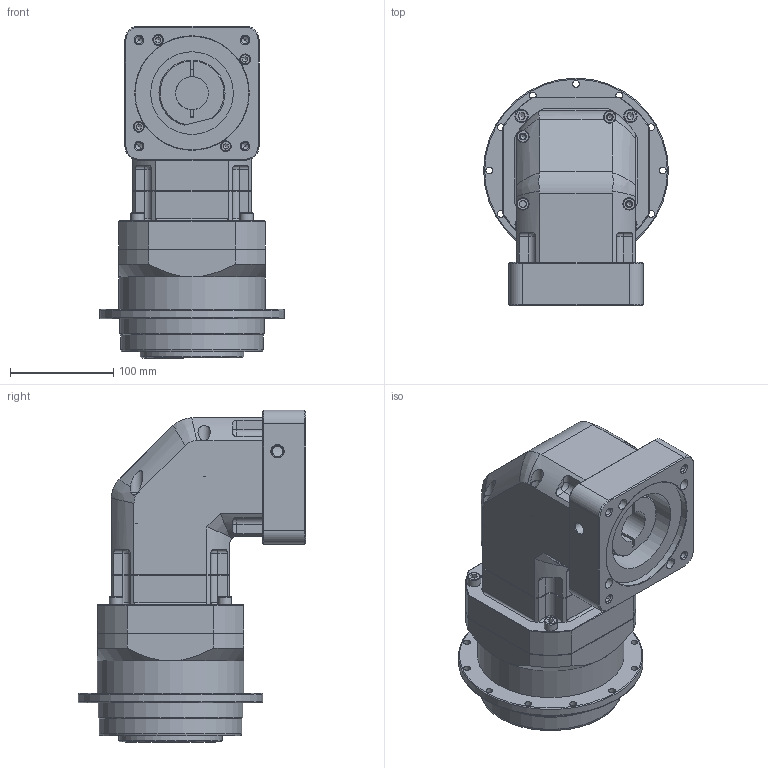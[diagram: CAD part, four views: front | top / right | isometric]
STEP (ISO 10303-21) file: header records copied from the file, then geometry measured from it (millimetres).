
FILE_DESCRIPTION((''),'2;1');
FILE_NAME('D:\유성\유성\도면\3D\2. 홈페이지용 3D 도면 (ipt)\외부도\SPLFH142\SPLFH142D SERIES (2 STAGE)_Shrinkwrap_1.stp','2014-05-07T10:36:10',('nagyu'),(''),'Autodesk Inventor 2013','Autodesk Inventor 2013','');
FILE_SCHEMA(('AUTOMOTIVE_DESIGN { 1 0 10303 214 1 1 1 1 }'));
Length unit declared in the file: millimetre
Products named in the file (1): SPLFH142D SERIES (2 STAGE)_Shrinkwrap_1
Bounding box: 179 x 220.8 x 321.65 mm (x, y, z)
Volume: 4428179.8 mm3; surface area: 371772.9 mm2
Topology: 1 solids, 20 shells, 557 faces, 1290 edges, 810 vertices
Faces by surface type: plane 229, cylinder 195, cone 99, torus 22, bspline 12
Full cylindrical faces by diameter (mm): 4.917 x4, 6 x4, 6.6 x20, 6.647 x16, 8 x5, 9 x4, 10 x4, 10.2 x1, 10.5 x4, 11 x4, 12 x1, 13 x15, 32 x1, 45 x1, 50 x1, 61.5 x1, 72 x1, 80 x1, 90 x2, 92 x1, 100 x4, 103 x1, 108.2 x1, 110 x1, 125 x2, 129.8 x1, 138 x1, 140 x1, 142 x1, 179 x1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
Entity records: 15665 total; most frequent: CARTESIAN_POINT 3921, DIRECTION 2401, ORIENTED_EDGE 2084, EDGE_CURVE 1042, AXIS2_PLACEMENT_3D 996, EDGE_LOOP 822, VERTEX_POINT 740, FACE_OUTER_BOUND 557
